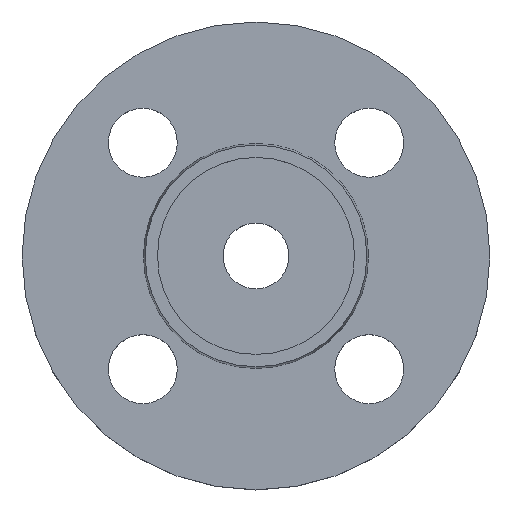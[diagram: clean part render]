
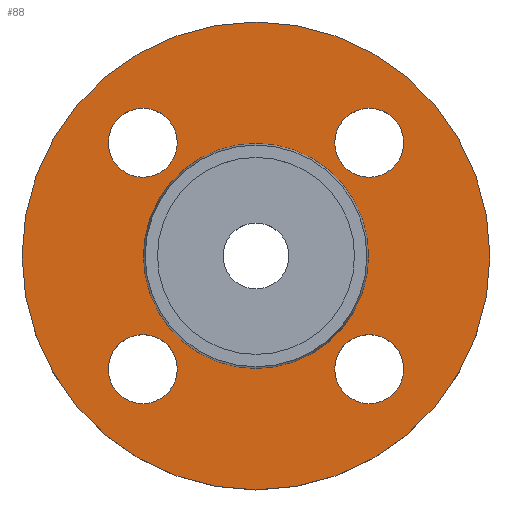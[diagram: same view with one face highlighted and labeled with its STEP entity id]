
A CAD part, top view. The second image highlights one B-rep face of the part: STEP entity #88.
In plain terms, the highlighted planar face has unit normal (0, 0, 1).
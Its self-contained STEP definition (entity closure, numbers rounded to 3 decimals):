
#18 = AXIS2_PLACEMENT_3D ( 'NONE', #231, #234, #235 ) ;
#22 = AXIS2_PLACEMENT_3D ( 'NONE', #329, #335, #337 ) ;
#30 = CIRCLE ( 'NONE', #22, 22.853 ) ;
#32 = VERTEX_POINT ( 'NONE', #699 ) ;
#63 = AXIS2_PLACEMENT_3D ( 'NONE', #410, #411, #412 ) ;
#75 = EDGE_CURVE ( 'NONE', #621, #494, #369, .T. ) ;
#76 = DIRECTION ( 'NONE',  ( 1., 0., 0. ) ) ;
#77 = DIRECTION ( 'NONE',  ( 0., 0., -1. ) ) ;
#78 = CARTESIAN_POINT ( 'NONE',  ( -22.981, -22.981, -2. ) ) ;
#84 = AXIS2_PLACEMENT_3D ( 'NONE', #113, #110, #105 ) ;
#85 = CIRCLE ( 'NONE', #447, 7. ) ;
#88 = ADVANCED_FACE ( 'NONE', ( #744, #745, #747, #749, #750, #751 ), #752, .T. ) ;
#105 = DIRECTION ( 'NONE',  ( -1., 0., 0. ) ) ;
#107 = CIRCLE ( 'NONE', #18, 7. ) ;
#109 = EDGE_LOOP ( 'NONE', ( #570, #571 ) ) ;
#110 = DIRECTION ( 'NONE',  ( 0., 0., -1. ) ) ;
#113 = CARTESIAN_POINT ( 'NONE',  ( 0., 0., -2. ) ) ;
#117 = CIRCLE ( 'NONE', #315, 7. ) ;
#123 = AXIS2_PLACEMENT_3D ( 'NONE', #78, #77, #76 ) ;
#128 = CARTESIAN_POINT ( 'NONE',  ( -22.853, 0., -2. ) ) ;
#138 = EDGE_CURVE ( 'NONE', #32, #651, #398, .T. ) ;
#142 = DIRECTION ( 'NONE',  ( 1., 0., 0. ) ) ;
#160 = EDGE_CURVE ( 'NONE', #467, #654, #518, .T. ) ;
#164 = DIRECTION ( 'NONE',  ( -1., 0., 0. ) ) ;
#165 = DIRECTION ( 'NONE',  ( 0., 0., -1. ) ) ;
#166 = CARTESIAN_POINT ( 'NONE',  ( 0., 0., -2. ) ) ;
#167 = EDGE_CURVE ( 'NONE', #654, #467, #85, .T. ) ;
#175 = CARTESIAN_POINT ( 'NONE',  ( -15.981, 22.981, -2. ) ) ;
#184 = CARTESIAN_POINT ( 'NONE',  ( 15.981, -22.981, -2. ) ) ;
#186 = CARTESIAN_POINT ( 'NONE',  ( -15.981, -22.981, -2. ) ) ;
#192 = CARTESIAN_POINT ( 'NONE',  ( -47.5, 0., -2. ) ) ;
#205 = EDGE_CURVE ( 'NONE', #492, #652, #107, .T. ) ;
#213 = CARTESIAN_POINT ( 'NONE',  ( -29.981, 22.981, -2. ) ) ;
#231 = CARTESIAN_POINT ( 'NONE',  ( 22.981, -22.981, -2. ) ) ;
#234 = DIRECTION ( 'NONE',  ( 0., 0., -1. ) ) ;
#235 = DIRECTION ( 'NONE',  ( 1., 0., 0. ) ) ;
#255 = EDGE_CURVE ( 'NONE', #652, #492, #650, .T. ) ;
#264 = CARTESIAN_POINT ( 'NONE',  ( 22.981, -22.981, -2. ) ) ;
#265 = AXIS2_PLACEMENT_3D ( 'NONE', #798, #799, #142 ) ;
#268 = DIRECTION ( 'NONE',  ( 0., 0., -1. ) ) ;
#269 = DIRECTION ( 'NONE',  ( 1., 0., 0. ) ) ;
#282 = CIRCLE ( 'NONE', #123, 7. ) ;
#293 = CARTESIAN_POINT ( 'NONE',  ( 47.5, 0., -2. ) ) ;
#314 = CARTESIAN_POINT ( 'NONE',  ( 29.981, -22.981, -2. ) ) ;
#315 = AXIS2_PLACEMENT_3D ( 'NONE', #319, #320, #321 ) ;
#319 = CARTESIAN_POINT ( 'NONE',  ( 22.981, 22.981, -2. ) ) ;
#320 = DIRECTION ( 'NONE',  ( 0., 0., -1. ) ) ;
#321 = DIRECTION ( 'NONE',  ( 1., 0., 0. ) ) ;
#327 = CARTESIAN_POINT ( 'NONE',  ( 29.981, 22.981, -2. ) ) ;
#329 = CARTESIAN_POINT ( 'NONE',  ( 0., 0., -2. ) ) ;
#330 = EDGE_CURVE ( 'NONE', #465, #485, #117, .T. ) ;
#335 = DIRECTION ( 'NONE',  ( 0., 0., -1. ) ) ;
#337 = DIRECTION ( 'NONE',  ( -1., 0., 0. ) ) ;
#350 = CARTESIAN_POINT ( 'NONE',  ( -22.981, 22.981, -2. ) ) ;
#369 = CIRCLE ( 'NONE', #400, 47.5 ) ;
#377 = CARTESIAN_POINT ( 'NONE',  ( 15.981, 22.981, -2. ) ) ;
#378 = EDGE_CURVE ( 'NONE', #682, #477, #30, .T. ) ;
#394 = AXIS2_PLACEMENT_3D ( 'NONE', #780, #782, #783 ) ;
#395 = CIRCLE ( 'NONE', #63, 7. ) ;
#398 = CIRCLE ( 'NONE', #394, 7. ) ;
#400 = AXIS2_PLACEMENT_3D ( 'NONE', #732, #734, #736 ) ;
#410 = CARTESIAN_POINT ( 'NONE',  ( 22.981, 22.981, -2. ) ) ;
#411 = DIRECTION ( 'NONE',  ( 0., 0., -1. ) ) ;
#412 = DIRECTION ( 'NONE',  ( 1., 0., 0. ) ) ;
#415 = EDGE_CURVE ( 'NONE', #485, #465, #395, .T. ) ;
#440 = DIRECTION ( 'NONE',  ( 1., 0., 0. ) ) ;
#447 = AXIS2_PLACEMENT_3D ( 'NONE', #350, #480, #440 ) ;
#457 = AXIS2_PLACEMENT_3D ( 'NONE', #166, #165, #164 ) ;
#465 = VERTEX_POINT ( 'NONE', #377 ) ;
#467 = VERTEX_POINT ( 'NONE', #213 ) ;
#477 = VERTEX_POINT ( 'NONE', #710 ) ;
#480 = DIRECTION ( 'NONE',  ( 0., 0., -1. ) ) ;
#485 = VERTEX_POINT ( 'NONE', #327 ) ;
#492 = VERTEX_POINT ( 'NONE', #314 ) ;
#494 = VERTEX_POINT ( 'NONE', #293 ) ;
#496 = EDGE_LOOP ( 'NONE', ( #572, #573 ) ) ;
#498 = EDGE_LOOP ( 'NONE', ( #580, #581 ) ) ;
#518 = CIRCLE ( 'NONE', #265, 7. ) ;
#521 = CIRCLE ( 'NONE', #84, 47.5 ) ;
#560 = CIRCLE ( 'NONE', #457, 22.853 ) ;
#568 = ORIENTED_EDGE ( 'NONE', *, *, #205, .T. ) ;
#569 = ORIENTED_EDGE ( 'NONE', *, *, #255, .T. ) ;
#570 = ORIENTED_EDGE ( 'NONE', *, *, #741, .T. ) ;
#571 = ORIENTED_EDGE ( 'NONE', *, *, #138, .T. ) ;
#572 = ORIENTED_EDGE ( 'NONE', *, *, #167, .T. ) ;
#573 = ORIENTED_EDGE ( 'NONE', *, *, #160, .T. ) ;
#574 = ORIENTED_EDGE ( 'NONE', *, *, #415, .T. ) ;
#576 = ORIENTED_EDGE ( 'NONE', *, *, #330, .T. ) ;
#578 = ORIENTED_EDGE ( 'NONE', *, *, #378, .T. ) ;
#579 = ORIENTED_EDGE ( 'NONE', *, *, #663, .T. ) ;
#580 = ORIENTED_EDGE ( 'NONE', *, *, #704, .F. ) ;
#581 = ORIENTED_EDGE ( 'NONE', *, *, #75, .F. ) ;
#617 = AXIS2_PLACEMENT_3D ( 'NONE', #264, #268, #269 ) ;
#621 = VERTEX_POINT ( 'NONE', #192 ) ;
#648 = EDGE_LOOP ( 'NONE', ( #578, #579 ) ) ;
#650 = CIRCLE ( 'NONE', #617, 7. ) ;
#651 = VERTEX_POINT ( 'NONE', #186 ) ;
#652 = VERTEX_POINT ( 'NONE', #184 ) ;
#654 = VERTEX_POINT ( 'NONE', #175 ) ;
#656 = EDGE_LOOP ( 'NONE', ( #568, #569 ) ) ;
#663 = EDGE_CURVE ( 'NONE', #477, #682, #560, .T. ) ;
#682 = VERTEX_POINT ( 'NONE', #128 ) ;
#688 = EDGE_LOOP ( 'NONE', ( #574, #576 ) ) ;
#690 = AXIS2_PLACEMENT_3D ( 'NONE', #753, #754, #756 ) ;
#699 = CARTESIAN_POINT ( 'NONE',  ( -29.981, -22.981, -2. ) ) ;
#704 = EDGE_CURVE ( 'NONE', #494, #621, #521, .T. ) ;
#710 = CARTESIAN_POINT ( 'NONE',  ( 22.853, 0., -2. ) ) ;
#732 = CARTESIAN_POINT ( 'NONE',  ( 0., 0., -2. ) ) ;
#734 = DIRECTION ( 'NONE',  ( 0., 0., -1. ) ) ;
#736 = DIRECTION ( 'NONE',  ( -1., 0., 0. ) ) ;
#741 = EDGE_CURVE ( 'NONE', #651, #32, #282, .T. ) ;
#744 = FACE_BOUND ( 'NONE', #656, .T. ) ;
#745 = FACE_BOUND ( 'NONE', #109, .T. ) ;
#747 = FACE_BOUND ( 'NONE', #496, .T. ) ;
#749 = FACE_BOUND ( 'NONE', #688, .T. ) ;
#750 = FACE_BOUND ( 'NONE', #648, .T. ) ;
#751 = FACE_OUTER_BOUND ( 'NONE', #498, .T. ) ;
#752 = PLANE ( 'NONE',  #690 ) ;
#753 = CARTESIAN_POINT ( 'NONE',  ( 22.853, 0., -2. ) ) ;
#754 = DIRECTION ( 'NONE',  ( 0., 0., 1. ) ) ;
#756 = DIRECTION ( 'NONE',  ( 1., 0., 0. ) ) ;
#780 = CARTESIAN_POINT ( 'NONE',  ( -22.981, -22.981, -2. ) ) ;
#782 = DIRECTION ( 'NONE',  ( 0., 0., -1. ) ) ;
#783 = DIRECTION ( 'NONE',  ( 1., 0., 0. ) ) ;
#798 = CARTESIAN_POINT ( 'NONE',  ( -22.981, 22.981, -2. ) ) ;
#799 = DIRECTION ( 'NONE',  ( 0., 0., -1. ) ) ;
